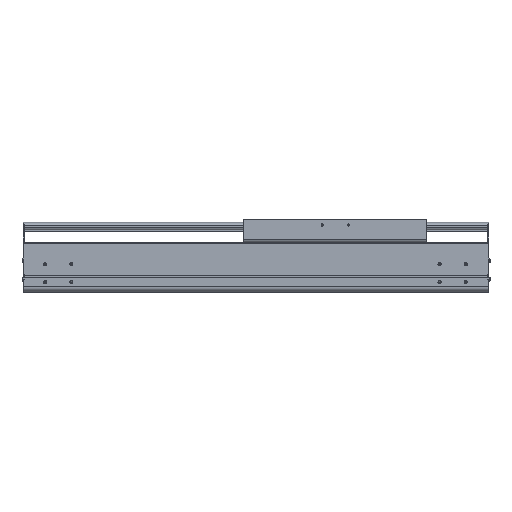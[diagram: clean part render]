
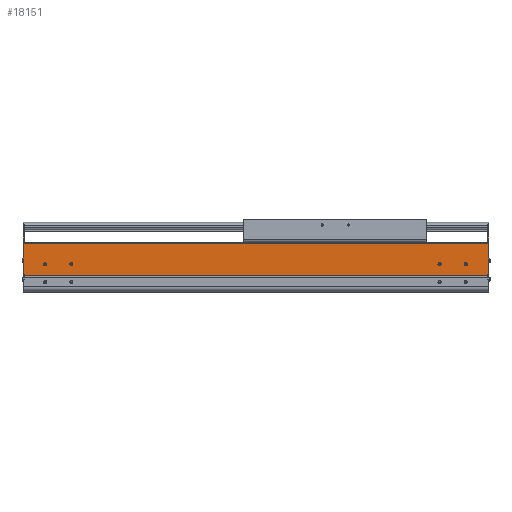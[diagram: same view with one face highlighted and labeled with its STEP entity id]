
A CAD part, top view. The second image highlights one B-rep face of the part: STEP entity #18151.
In plain terms, the highlighted planar face has unit normal (0, 0, 1).
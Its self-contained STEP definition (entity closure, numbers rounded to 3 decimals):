
#4235=DIRECTION('',(-1.,0.,0.));
#4236=VECTOR('',#4235,888.);
#4237=CARTESIAN_POINT('',(2.,93.5,107.));
#4238=LINE('',#4237,#4236);
#4261=CARTESIAN_POINT('',(-42.,54.,107.));
#4262=DIRECTION('',(0.,0.,-1.));
#4263=DIRECTION('',(1.,0.,0.));
#4264=AXIS2_PLACEMENT_3D('',#4261,#4262,#4263);
#4266=CARTESIAN_POINT('',(-42.,54.,107.));
#4267=DIRECTION('',(0.,0.,-1.));
#4268=DIRECTION('',(-1.,0.,0.));
#4269=AXIS2_PLACEMENT_3D('',#4266,#4267,#4268);
#4271=CARTESIAN_POINT('',(-92.,54.,107.));
#4272=DIRECTION('',(0.,0.,-1.));
#4273=DIRECTION('',(1.,0.,0.));
#4274=AXIS2_PLACEMENT_3D('',#4271,#4272,#4273);
#4276=CARTESIAN_POINT('',(-92.,54.,107.));
#4277=DIRECTION('',(0.,0.,-1.));
#4278=DIRECTION('',(-1.,0.,0.));
#4279=AXIS2_PLACEMENT_3D('',#4276,#4277,#4278);
#4281=CARTESIAN_POINT('',(-844.,54.,107.));
#4282=DIRECTION('',(0.,0.,-1.));
#4283=DIRECTION('',(1.,0.,0.));
#4284=AXIS2_PLACEMENT_3D('',#4281,#4282,#4283);
#4286=CARTESIAN_POINT('',(-844.,54.,107.));
#4287=DIRECTION('',(0.,0.,-1.));
#4288=DIRECTION('',(-1.,0.,0.));
#4289=AXIS2_PLACEMENT_3D('',#4286,#4287,#4288);
#4291=CARTESIAN_POINT('',(-794.,54.,107.));
#4292=DIRECTION('',(0.,0.,-1.));
#4293=DIRECTION('',(1.,0.,0.));
#4294=AXIS2_PLACEMENT_3D('',#4291,#4292,#4293);
#4296=CARTESIAN_POINT('',(-794.,54.,107.));
#4297=DIRECTION('',(0.,0.,-1.));
#4298=DIRECTION('',(-1.,0.,0.));
#4299=AXIS2_PLACEMENT_3D('',#4296,#4297,#4298);
#4301=DIRECTION('',(0.,-1.,0.));
#4302=VECTOR('',#4301,2.55);
#4303=CARTESIAN_POINT('',(-884.,34.65,107.));
#4304=LINE('',#4303,#4302);
#4305=DIRECTION('',(0.,-1.,0.));
#4306=VECTOR('',#4305,58.85);
#4307=CARTESIAN_POINT('',(-886.,93.5,107.));
#4308=LINE('',#4307,#4306);
#4309=DIRECTION('',(0.,1.,0.));
#4310=VECTOR('',#4309,58.85);
#4311=CARTESIAN_POINT('',(2.,34.65,107.));
#4312=LINE('',#4311,#4310);
#4313=DIRECTION('',(0.,1.,0.));
#4314=VECTOR('',#4313,2.55);
#4315=CARTESIAN_POINT('',(0.,32.1,107.));
#4316=LINE('',#4315,#4314);
#4425=DIRECTION('',(1.,0.,0.));
#4426=VECTOR('',#4425,2.);
#4427=CARTESIAN_POINT('',(-886.,34.65,107.));
#4428=LINE('',#4427,#4426);
#4437=DIRECTION('',(1.,0.,0.));
#4438=VECTOR('',#4437,2.);
#4439=CARTESIAN_POINT('',(0.,34.65,107.));
#4440=LINE('',#4439,#4438);
#4457=DIRECTION('',(1.,0.,0.));
#4458=VECTOR('',#4457,884.);
#4459=CARTESIAN_POINT('',(-884.,32.1,107.));
#4460=LINE('',#4459,#4458);
#10155=CARTESIAN_POINT('',(-886.,34.65,107.));
#10156=VERTEX_POINT('',#10155);
#10157=CARTESIAN_POINT('',(-886.,93.5,107.));
#10158=VERTEX_POINT('',#10157);
#10387=CARTESIAN_POINT('',(-884.,32.1,107.));
#10388=VERTEX_POINT('',#10387);
#10483=CARTESIAN_POINT('',(0.,32.1,107.));
#10484=VERTEX_POINT('',#10483);
#10793=CARTESIAN_POINT('',(-39.5,54.,107.));
#10794=CARTESIAN_POINT('',(-44.5,54.,107.));
#10795=VERTEX_POINT('',#10793);
#10796=VERTEX_POINT('',#10794);
#10797=CARTESIAN_POINT('',(-89.5,54.,107.));
#10798=CARTESIAN_POINT('',(-94.5,54.,107.));
#10799=VERTEX_POINT('',#10797);
#10800=VERTEX_POINT('',#10798);
#10801=CARTESIAN_POINT('',(-841.5,54.,107.));
#10802=CARTESIAN_POINT('',(-846.5,54.,107.));
#10803=VERTEX_POINT('',#10801);
#10804=VERTEX_POINT('',#10802);
#10805=CARTESIAN_POINT('',(-791.5,54.,107.));
#10806=CARTESIAN_POINT('',(-796.5,54.,107.));
#10807=VERTEX_POINT('',#10805);
#10808=VERTEX_POINT('',#10806);
#11780=CARTESIAN_POINT('',(2.,34.65,107.));
#11781=VERTEX_POINT('',#11780);
#11782=CARTESIAN_POINT('',(2.,93.5,107.));
#11783=VERTEX_POINT('',#11782);
#12004=CARTESIAN_POINT('',(0.,34.65,107.));
#12005=VERTEX_POINT('',#12004);
#12316=CARTESIAN_POINT('',(-884.,34.65,107.));
#12317=VERTEX_POINT('',#12316);
#18109=CARTESIAN_POINT('',(-442.,62.8,107.));
#18110=DIRECTION('',(0.,0.,1.));
#18111=DIRECTION('',(0.,-1.,0.));
#18112=AXIS2_PLACEMENT_3D('',#18109,#18110,#18111);
#18113=PLANE('',#18112);
#18114=ORIENTED_EDGE('',*,*,#13519,.F.);
#18116=ORIENTED_EDGE('',*,*,#18115,.F.);
#18117=ORIENTED_EDGE('',*,*,#15349,.F.);
#18118=ORIENTED_EDGE('',*,*,#18095,.F.);
#18119=ORIENTED_EDGE('',*,*,#14961,.F.);
#18121=ORIENTED_EDGE('',*,*,#18120,.F.);
#18122=ORIENTED_EDGE('',*,*,#14196,.F.);
#18124=ORIENTED_EDGE('',*,*,#18123,.F.);
#18125=EDGE_LOOP('',(#18114,#18116,#18117,#18118,#18119,#18121,#18122,#18124));
#18126=FACE_OUTER_BOUND('',#18125,.F.);
#18128=ORIENTED_EDGE('',*,*,#18127,.F.);
#18130=ORIENTED_EDGE('',*,*,#18129,.F.);
#18131=EDGE_LOOP('',(#18128,#18130));
#18132=FACE_BOUND('',#18131,.F.);
#18134=ORIENTED_EDGE('',*,*,#18133,.F.);
#18136=ORIENTED_EDGE('',*,*,#18135,.F.);
#18137=EDGE_LOOP('',(#18134,#18136));
#18138=FACE_BOUND('',#18137,.F.);
#18140=ORIENTED_EDGE('',*,*,#18139,.F.);
#18142=ORIENTED_EDGE('',*,*,#18141,.F.);
#18143=EDGE_LOOP('',(#18140,#18142));
#18144=FACE_BOUND('',#18143,.F.);
#18146=ORIENTED_EDGE('',*,*,#18145,.F.);
#18148=ORIENTED_EDGE('',*,*,#18147,.F.);
#18149=EDGE_LOOP('',(#18146,#18148));
#18150=FACE_BOUND('',#18149,.F.);
#18151=ADVANCED_FACE('',(#18126,#18132,#18138,#18144,#18150),#18113,.T.);
#4265=CIRCLE('',#4264,2.5);
#4270=CIRCLE('',#4269,2.5);
#4275=CIRCLE('',#4274,2.5);
#4280=CIRCLE('',#4279,2.5);
#4285=CIRCLE('',#4284,2.5);
#4290=CIRCLE('',#4289,2.5);
#4295=CIRCLE('',#4294,2.5);
#4300=CIRCLE('',#4299,2.5);
#13519=EDGE_CURVE('',#12317,#10388,#4304,.T.);
#14196=EDGE_CURVE('',#10484,#12005,#4316,.T.);
#14961=EDGE_CURVE('',#11781,#11783,#4312,.T.);
#15349=EDGE_CURVE('',#10158,#10156,#4308,.T.);
#18095=EDGE_CURVE('',#11783,#10158,#4238,.T.);
#18115=EDGE_CURVE('',#10156,#12317,#4428,.T.);
#18120=EDGE_CURVE('',#12005,#11781,#4440,.T.);
#18123=EDGE_CURVE('',#10388,#10484,#4460,.T.);
#18127=EDGE_CURVE('',#10799,#10800,#4275,.T.);
#18129=EDGE_CURVE('',#10800,#10799,#4280,.T.);
#18133=EDGE_CURVE('',#10803,#10804,#4285,.T.);
#18135=EDGE_CURVE('',#10804,#10803,#4290,.T.);
#18139=EDGE_CURVE('',#10807,#10808,#4295,.T.);
#18141=EDGE_CURVE('',#10808,#10807,#4300,.T.);
#18145=EDGE_CURVE('',#10795,#10796,#4265,.T.);
#18147=EDGE_CURVE('',#10796,#10795,#4270,.T.);
